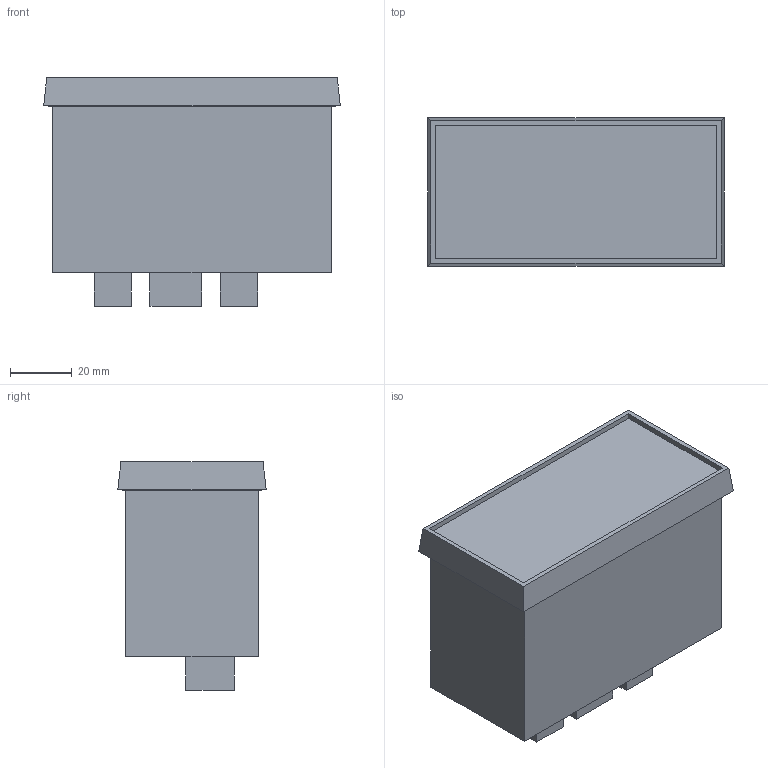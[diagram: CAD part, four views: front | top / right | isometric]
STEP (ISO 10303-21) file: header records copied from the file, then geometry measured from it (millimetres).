
FILE_DESCRIPTION (( 'STEP AP203' ), '1' );
FILE_NAME ('M0005 EPM-4C 48x96 220VAC TÝ Elektronik Ampermetre.STEP', '2023-02-07T11:13:35', ( '' ), ( '' ), 'SwSTEP 2.0', 'SolidWorks 2021', '' );
FILE_SCHEMA (( 'CONFIG_CONTROL_DESIGN' ));
Length unit declared in the file: millimetre
Products named in the file (1): M0005 EPM-4C 48x96 220VAC TÝ Elektronik Ampermetre
Bounding box: 96 x 48 x 73.95 mm (x, y, z)
Volume: 247150.4 mm3; surface area: 28902.4 mm2
Topology: 1 solids, 2 shells, 67 faces, 164 edges, 108 vertices
Faces by surface type: plane 67
Entity records: 2001 total; most frequent: CARTESIAN_POINT 340, ORIENTED_EDGE 328, DIRECTION 300, VECTOR 164, EDGE_CURVE 164, LINE 164, VERTEX_POINT 108, EDGE_LOOP 74
